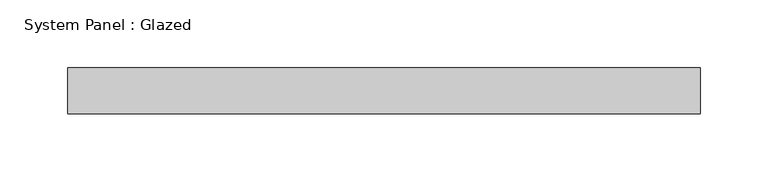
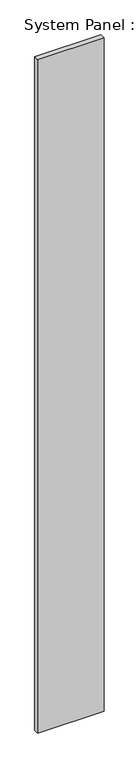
"""IFC4 building model written with IfcOpenShell, lengths in millimetres: plate geometry, System Panel : Glazed."""

from ifc_helpers import new_model, si_unit, origin, origin_with_axes, place, context, project, spatial, polyline, outline, extrude, source, transform, mapped, element, save


def system_panel_glazed_cb6aa243(model_context):
    return source(origin(), model_context, "Body", "SweptSolid", [
        extrude(outline(polyline([(233.75, -17.0), (-233.75, -17.0), (-233.75, 17.0), (233.75, 17.0), (233.75, -17.0)])), origin_with_axes(), (0.0, 0.0, 1.0), 5000.0),
    ])


if __name__ == "__main__":
    model = new_model("IFC4")
    model_context = context("Model", 3, world=origin())
    ifc_project = project(units=[si_unit("LENGTHUNIT", "METRE", prefix="MILLI")], contexts=[model_context])
    site = spatial("IfcSite", under=ifc_project)
    building = spatial("IfcBuilding", under=site)
    placement = place(None, origin())
    system_panel_glazed_shape = system_panel_glazed_cb6aa243(model_context)
    element("IfcPlate", 1, ObjectType="System Panel : Glazed", at=placement, inside=building, context=model_context, shape_type="MappedRepresentation", body=[
        mapped(system_panel_glazed_shape, transform((0.0, 0.0, 0.0), x_axis=(1.0, 0.0, 0.0), y_axis=(0.0, 1.0, 0.0), z_axis=(0.0, 0.0, 1.0))),
    ])
    save(model, "model.ifc")
